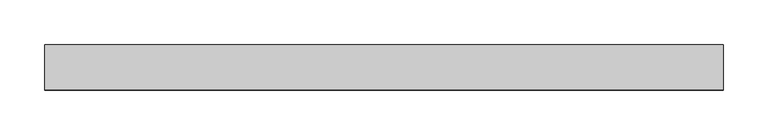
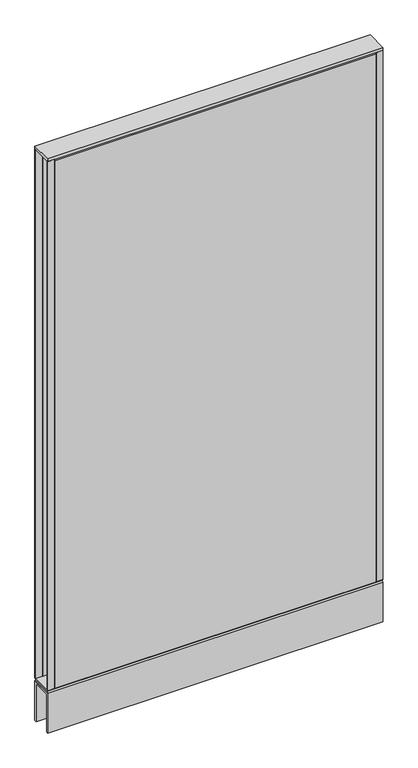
"""IFC4 building model written with IfcOpenShell, lengths in millimetres: furniture geometry, Steelcase - Kick Solutions - Panel - Monolithic - Tackable Acoustical : 54H x 30W."""

from ifc_helpers import new_model, si_unit, frame, origin, place, context, project, spatial, polyline, outline, extrude, source, transform, mapped, element, save


def furniture_a5afa725(model_context):
    return source(origin(), model_context, "Body", "SweptSolid", [
        extrude(outline(polyline([(0.0, 101.7169049), (-3.1750015, 101.7169049), (-3.1750015, 1371.7169018), (0.0, 1368.6357466), (0.0, 101.7169049)])), frame((15.8749996, 0.0, 0.0), z_axis=(1.0, 0.0, 0.0), x_axis=(0.0, 1.0, 0.0)), (0.0, 0.0, 1.0), 730.2500008),
        extrude(outline(polyline([(-50.8000015, 101.7169049), (-50.8000015, 1368.6357466), (-47.625, 1371.7169018), (-47.625, 101.7169049), (-50.8000015, 101.7169049)])), frame((15.8749996, 0.0, 0.0), z_axis=(1.0, 0.0, 0.0), x_axis=(0.0, 1.0, 0.0)), (0.0, 0.0, 1.0), 730.2500008),
        extrude(outline(polyline([(762.0, -3.1750015), (746.1250004, -3.1750015), (746.1250004, 0.0), (762.0, 0.0), (762.0, -3.1750015)])), frame((0.0, 0.0, 101.7169049), z_axis=(0.0, 0.0, 1.0), x_axis=(1.0, 0.0, 0.0)), (0.0, 0.0, 1.0), 1269.999997),
        extrude(outline(polyline([(15.8749996, -50.8000015), (0.0, -50.8000015), (0.0, -47.625), (15.8749996, -47.625), (15.8749996, -50.8000015)])), frame((0.0, 0.0, 101.7169049), z_axis=(0.0, 0.0, 1.0), x_axis=(1.0, 0.0, 0.0)), (0.0, 0.0, 1.0), 1269.999997),
        extrude(outline(polyline([(-50.7995075, 101.7169049), (-0.000494, 101.7169049), (-3.0583512, 98.5421458), (-47.7416503, 98.5421458), (-50.7995075, 101.7169049)])), frame((0.0, 0.0, 0.0), z_axis=(1.0, 0.0, 0.0), x_axis=(0.0, 1.0, 0.0)), (0.0, 0.0, 1.0), 762.0),
        extrude(outline(polyline([(762.0, 0.0), (762.0, -50.8000015), (0.0, -50.8000015), (0.0, 0.0), (762.0, 0.0)])), frame((0.0, 0.0, 1371.7169018), z_axis=(0.0, 0.0, 1.0), x_axis=(1.0, 0.0, 0.0)), (0.0, 0.0, 1.0), 6.35),
        extrude(outline(polyline([(15.8749996, -3.1750015), (0.0, -3.1750015), (0.0, 0.0), (15.8749996, 0.0), (15.8749996, -3.1750015)])), frame((0.0, 0.0, 101.7169049), z_axis=(0.0, 0.0, 1.0), x_axis=(1.0, 0.0, 0.0)), (0.0, 0.0, 1.0), 1269.999997),
        extrude(outline(polyline([(762.0, -50.8000015), (746.1250004, -50.8000015), (746.1250004, -47.625), (762.0, -47.625), (762.0, -50.8000015)])), frame((0.0, 0.0, 101.7169049), z_axis=(0.0, 0.0, 1.0), x_axis=(1.0, 0.0, 0.0)), (0.0, 0.0, 1.0), 1269.999997),
        extrude(outline(polyline([(-50.8000015, 95.3668927), (-47.6247484, 98.5421458), (-3.1752531, 98.5421458), (0.0, 95.3668927), (-50.8000015, 95.3668927)])), frame((0.0, 0.0, 0.0), z_axis=(1.0, 0.0, 0.0), x_axis=(0.0, 1.0, 0.0)), (0.0, 0.0, 1.0), 762.0),
        extrude(outline(polyline([(0.0, 0.0), (-5.08, 0.0), (-5.08, 90.2869018), (-45.7200015, 90.2869018), (-45.7200015, 0.0), (-50.8000015, 0.0), (-50.8000015, 95.3669018), (0.0, 95.3669018), (0.0, 0.0)])), frame((0.0, 0.0, 0.0), z_axis=(1.0, 0.0, 0.0), x_axis=(0.0, 1.0, 0.0)), (0.0, 0.0, 1.0), 762.0),
    ])


if __name__ == "__main__":
    model = new_model("IFC4")
    model_context = context("Model", 3, world=origin())
    ifc_project = project(units=[si_unit("LENGTHUNIT", "METRE", prefix="MILLI")], contexts=[model_context])
    site = spatial("IfcSite", under=ifc_project)
    building = spatial("IfcBuilding", under=site)
    placement = place(None, origin())
    furniture_shape = furniture_a5afa725(model_context)
    element("IfcFurniture", 1, ObjectType="Steelcase - Kick Solutions - Panel - Monolithic - Tackable Acoustical : 54H x 30W", at=placement, inside=building, context=model_context, shape_type="MappedRepresentation", body=[
        mapped(furniture_shape, transform((0.0, 0.0, 0.0), x_axis=(1.0, 0.0, 0.0), y_axis=(0.0, 1.0, 0.0), z_axis=(0.0, 0.0, 1.0))),
    ])
    save(model, "model.ifc")
